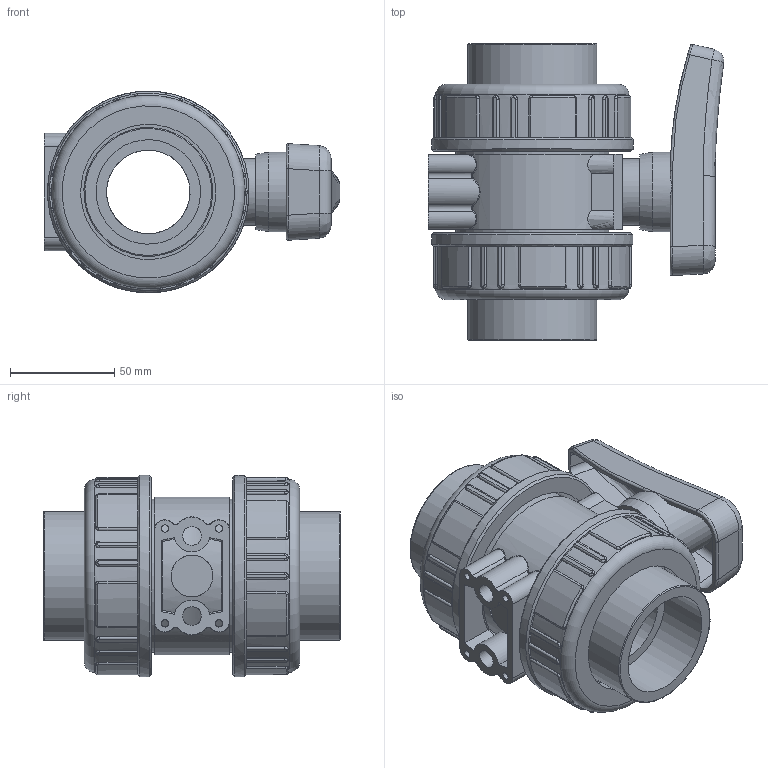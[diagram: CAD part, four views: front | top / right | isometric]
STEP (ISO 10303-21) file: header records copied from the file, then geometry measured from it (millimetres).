
FILE_DESCRIPTION(/* description */ (''),/* implementation_level */ '2;1');
FILE_NAME(/* name */ 'C:\Users\POLYPIPE\Desktop\DATASET INVENTOR\LIBRERIA EFFAST\3D_VALVOLE\3D_VALVOLE A SFERA\3D_BK1\3D_BHPBK1H\3D_BHPBK1H0500.stp',/* time_stamp */ '2018-01-25T16:34:07+01:00',/* author */ ('POLYPIPE'),/* organization */ (''),/* preprocessor_version */ 'ST-DEVELOPER v16.1',/* originating_system */ 'Autodesk Inventor 2016',/* authorisation */ '');
FILE_SCHEMA (('CONFIG_CONTROL_DESIGN'));
Products named in the file (1): 3D_BHPBK1H0500
Bounding box: 141.54 x 142 x 96.45 mm (x, y, z)
Volume: 561886.1 mm3; surface area: 144425.2 mm2
Topology: 3 solids, 3 shells, 618 faces, 1511 edges, 928 vertices
Faces by surface type: cylinder 209, plane 201, bspline 179, torus 20, cone 5, sphere 4
Full cylindrical faces by diameter (mm): 3.1 x4, 3.5 x4, 9 x2, 20 x1, 31.8 x1, 38 x1, 39.9 x1, 40 x2, 44.6 x1, 50 x2, 55.6 x1, 60.9 x1, 61.7 x2, 64.7 x2, 73 x2, 73.3 x2, 78.5 x2, 92.5 x2, 96.5 x2
Entity records: 63452 total; most frequent: CARTESIAN_POINT 49296, ORIENTED_EDGE 2894, DIRECTION 2577, EDGE_CURVE 1447, AXIS2_PLACEMENT_3D 994, VERTEX_POINT 908, EDGE_LOOP 699, STYLED_ITEM 621
